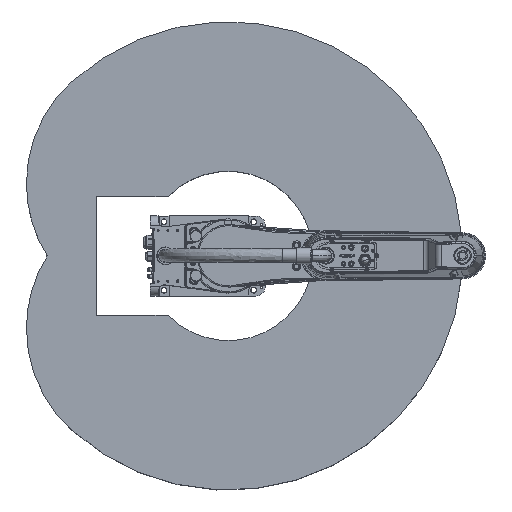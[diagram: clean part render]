
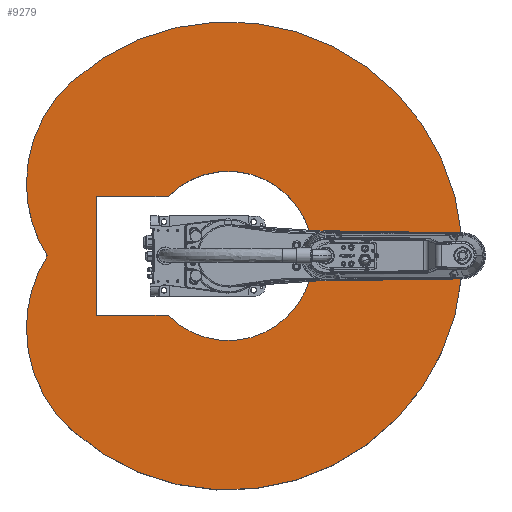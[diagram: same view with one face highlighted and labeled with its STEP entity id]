
A CAD part, top view. The second image highlights one B-rep face of the part: STEP entity #9279.
In plain terms, the highlighted planar face has unit normal (0, 0, 1) as drawn and (0, -1, 0) by its records, which use the part's own axes.
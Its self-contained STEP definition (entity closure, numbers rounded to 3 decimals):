
#4043 = VERTEX_POINT ( 'NONE', #160784 ) ;
#4889 = DIRECTION ( 'NONE',  ( 0., 1., 0. ) ) ;
#9279 = ADVANCED_FACE ( 'NONE', ( #160434, #79382 ), #115880, .F. ) ;
#10864 = EDGE_CURVE ( 'NONE', #94999, #64184, #153554, .T. ) ;
#11665 = ORIENTED_EDGE ( 'NONE', *, *, #121813, .F. ) ;
#12463 = DIRECTION ( 'NONE',  ( 0., 1., 0. ) ) ;
#16002 = EDGE_CURVE ( 'NONE', #18262, #4043, #67490, .T. ) ;
#16882 = CARTESIAN_POINT ( 'NONE',  ( 185.786, -112., 167.283 ) ) ;
#18262 = VERTEX_POINT ( 'NONE', #154913 ) ;
#22233 = CARTESIAN_POINT ( 'NONE',  ( -152.5, -112., 154.379 ) ) ;
#25720 = CARTESIAN_POINT ( 'NONE',  ( 152.5, -112., 154.379 ) ) ;
#26569 = ORIENTED_EDGE ( 'NONE', *, *, #150153, .T. ) ;
#28916 = DIRECTION ( 'NONE',  ( 0., 0., 1. ) ) ;
#28937 = DIRECTION ( 'NONE',  ( 0., 0., 1. ) ) ;
#29667 = CARTESIAN_POINT ( 'NONE',  ( 92.893, -112., 83.641 ) ) ;
#35095 = ORIENTED_EDGE ( 'NONE', *, *, #10864, .F. ) ;
#40315 = CIRCLE ( 'NONE', #116040, 600. ) ;
#40601 = CARTESIAN_POINT ( 'NONE',  ( 152.5, -112., 154.379 ) ) ;
#43097 = VECTOR ( 'NONE', #67132, 1000. ) ;
#50764 = CARTESIAN_POINT ( 'NONE',  ( 152.5, -112., 337.5 ) ) ;
#55908 = VERTEX_POINT ( 'NONE', #40601 ) ;
#57199 = CARTESIAN_POINT ( 'NONE',  ( -152.5, -112., 337.5 ) ) ;
#58925 = CARTESIAN_POINT ( 'NONE',  ( -185.786, -112., 167.283 ) ) ;
#63624 = ORIENTED_EDGE ( 'NONE', *, *, #159151, .F. ) ;
#64184 = VERTEX_POINT ( 'NONE', #172956 ) ;
#65634 = EDGE_LOOP ( 'NONE', ( #130284, #26569, #109256, #106701 ) ) ;
#67082 = VECTOR ( 'NONE', #82349, 1000. ) ;
#67132 = DIRECTION ( 'NONE',  ( 1., 0., 0. ) ) ;
#67490 = CIRCLE ( 'NONE', #131357, 350. ) ;
#69640 = EDGE_CURVE ( 'NONE', #170010, #55908, #85144, .T. ) ;
#70255 = CARTESIAN_POINT ( 'NONE',  ( -185.786, -112., 167.283 ) ) ;
#73409 = AXIS2_PLACEMENT_3D ( 'NONE', #58925, #145736, #186600 ) ;
#74366 = CIRCLE ( 'NONE', #170142, 350. ) ;
#79382 = FACE_OUTER_BOUND ( 'NONE', #135585, .T. ) ;
#79704 = CARTESIAN_POINT ( 'NONE',  ( -152.5, -112., 337.5 ) ) ;
#82349 = DIRECTION ( 'NONE',  ( 0., 0., -1. ) ) ;
#85144 = LINE ( 'NONE', #25720, #67082 ) ;
#91023 = AXIS2_PLACEMENT_3D ( 'NONE', #70255, #12463, #155233 ) ;
#92744 = VERTEX_POINT ( 'NONE', #22233 ) ;
#93001 = DIRECTION ( 'NONE',  ( 0., 1., 0. ) ) ;
#94999 = VERTEX_POINT ( 'NONE', #126142 ) ;
#96438 = CIRCLE ( 'NONE', #179247, 217. ) ;
#97145 = DIRECTION ( 'NONE',  ( 0., 1., 0. ) ) ;
#98167 = AXIS2_PLACEMENT_3D ( 'NONE', #29667, #145394, #100118 ) ;
#100118 = DIRECTION ( 'NONE',  ( 0., 0., 1. ) ) ;
#102400 = EDGE_CURVE ( 'NONE', #64184, #18262, #74366, .T. ) ;
#103746 = VECTOR ( 'NONE', #28937, 1000. ) ;
#106701 = ORIENTED_EDGE ( 'NONE', *, *, #186083, .T. ) ;
#109256 = ORIENTED_EDGE ( 'NONE', *, *, #69640, .T. ) ;
#112267 = CARTESIAN_POINT ( 'NONE',  ( 185.786, -112., 167.283 ) ) ;
#115880 = PLANE ( 'NONE',  #98167 ) ;
#116040 = AXIS2_PLACEMENT_3D ( 'NONE', #158510, #159122, #28916 ) ;
#116634 = ORIENTED_EDGE ( 'NONE', *, *, #102400, .F. ) ;
#120621 = VERTEX_POINT ( 'NONE', #171781 ) ;
#121813 = EDGE_CURVE ( 'NONE', #4043, #120621, #40315, .T. ) ;
#121977 = DIRECTION ( 'NONE',  ( 0., 0., -1. ) ) ;
#123858 = CARTESIAN_POINT ( 'NONE',  ( 152.5, -112., 337.5 ) ) ;
#126142 = CARTESIAN_POINT ( 'NONE',  ( -185.786, -112., 517.283 ) ) ;
#130284 = ORIENTED_EDGE ( 'NONE', *, *, #135586, .T. ) ;
#131357 = AXIS2_PLACEMENT_3D ( 'NONE', #16882, #4889, #134493 ) ;
#134493 = DIRECTION ( 'NONE',  ( 0., 0., 1. ) ) ;
#135459 = LINE ( 'NONE', #123858, #43097 ) ;
#135585 = EDGE_LOOP ( 'NONE', ( #116634, #35095, #63624, #11665, #180620 ) ) ;
#135586 = EDGE_CURVE ( 'NONE', #92744, #143669, #173389, .T. ) ;
#143669 = VERTEX_POINT ( 'NONE', #79704 ) ;
#145394 = DIRECTION ( 'NONE',  ( 0., 1., 0. ) ) ;
#145736 = DIRECTION ( 'NONE',  ( 0., 1., 0. ) ) ;
#150153 = EDGE_CURVE ( 'NONE', #143669, #170010, #135459, .T. ) ;
#153554 = CIRCLE ( 'NONE', #91023, 350. ) ;
#154913 = CARTESIAN_POINT ( 'NONE',  ( 185.786, -112., 517.283 ) ) ;
#155233 = DIRECTION ( 'NONE',  ( 0., 0., 1. ) ) ;
#158510 = CARTESIAN_POINT ( 'NONE',  ( 0., -112., 0. ) ) ;
#159122 = DIRECTION ( 'NONE',  ( 0., 1., 0. ) ) ;
#159151 = EDGE_CURVE ( 'NONE', #120621, #94999, #167252, .T. ) ;
#160434 = FACE_BOUND ( 'NONE', #65634, .T. ) ;
#160784 = CARTESIAN_POINT ( 'NONE',  ( 445.887, -112., 401.478 ) ) ;
#167252 = CIRCLE ( 'NONE', #73409, 350. ) ;
#168847 = DIRECTION ( 'NONE',  ( 0., 0., 1. ) ) ;
#170010 = VERTEX_POINT ( 'NONE', #50764 ) ;
#170142 = AXIS2_PLACEMENT_3D ( 'NONE', #112267, #97145, #168847 ) ;
#171781 = CARTESIAN_POINT ( 'NONE',  ( -445.887, -112., 401.478 ) ) ;
#172956 = CARTESIAN_POINT ( 'NONE',  ( 0., -112., 463.903 ) ) ;
#173389 = LINE ( 'NONE', #57199, #103746 ) ;
#175991 = CARTESIAN_POINT ( 'NONE',  ( 0., -112., 0. ) ) ;
#179247 = AXIS2_PLACEMENT_3D ( 'NONE', #175991, #93001, #121977 ) ;
#180620 = ORIENTED_EDGE ( 'NONE', *, *, #16002, .F. ) ;
#186083 = EDGE_CURVE ( 'NONE', #55908, #92744, #96438, .T. ) ;
#186600 = DIRECTION ( 'NONE',  ( 0., 0., 1. ) ) ;
